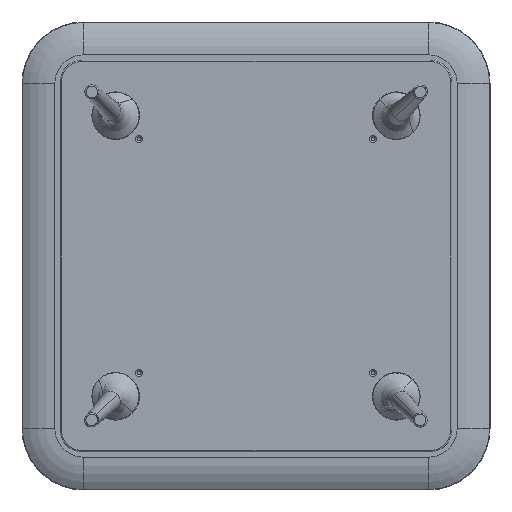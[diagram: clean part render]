
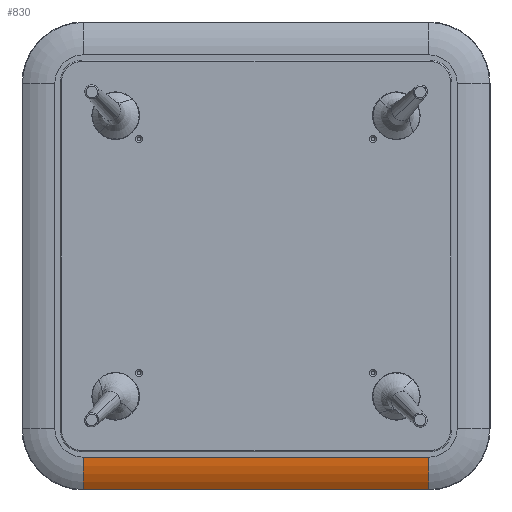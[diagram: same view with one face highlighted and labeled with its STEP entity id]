
A CAD part, front view. The second image highlights one B-rep face of the part: STEP entity #830.
In plain terms, the highlighted cylindrical face has radius 129.817 mm (diameter 259.633 mm), a partial arc.
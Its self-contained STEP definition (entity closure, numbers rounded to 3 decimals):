
#170 = ORIENTED_EDGE ( 'NONE', *, *, #1967, .T. ) ;
#342 = DIRECTION ( 'NONE',  ( -1., 0., 0. ) ) ;
#578 = ORIENTED_EDGE ( 'NONE', *, *, #3922, .T. ) ;
#830 = ADVANCED_FACE ( 'NONE', ( #7396 ), #3736, .T. ) ;
#1563 = DIRECTION ( 'NONE',  ( 0., 0., 1. ) ) ;
#1578 = VERTEX_POINT ( 'NONE', #3310 ) ;
#1723 = DIRECTION ( 'NONE',  ( 1., 0., 0. ) ) ;
#1757 = CARTESIAN_POINT ( 'NONE',  ( 607.107, 628.408, 497.806 ) ) ;
#1967 = EDGE_CURVE ( 'NONE', #3824, #1578, #7891, .T. ) ;
#2241 = VERTEX_POINT ( 'NONE', #6894 ) ;
#2606 = CIRCLE ( 'NONE', #8881, 129.817 ) ;
#2713 = EDGE_CURVE ( 'NONE', #6631, #1578, #4660, .T. ) ;
#3134 = CARTESIAN_POINT ( 'NONE',  ( 607.107, 603.84, 573.8 ) ) ;
#3148 = DIRECTION ( 'NONE',  ( 1., 0., 0. ) ) ;
#3310 = CARTESIAN_POINT ( 'NONE',  ( 607.107, 628.408, 497.806 ) ) ;
#3523 = EDGE_LOOP ( 'NONE', ( #7196, #170, #3719, #578 ) ) ;
#3689 = CARTESIAN_POINT ( 'NONE',  ( 607.107, 733.657, 573.8 ) ) ;
#3719 = ORIENTED_EDGE ( 'NONE', *, *, #2713, .F. ) ;
#3736 = CYLINDRICAL_SURFACE ( 'NONE', #4818, 129.817 ) ;
#3824 = VERTEX_POINT ( 'NONE', #4504 ) ;
#3922 = EDGE_CURVE ( 'NONE', #6631, #2241, #7454, .T. ) ;
#4369 = DIRECTION ( 'NONE',  ( 0., 0., 1. ) ) ;
#4504 = CARTESIAN_POINT ( 'NONE',  ( -204.893, 628.408, 497.806 ) ) ;
#4660 = CIRCLE ( 'NONE', #7905, 129.817 ) ;
#4818 = AXIS2_PLACEMENT_3D ( 'NONE', #7219, #342, #1563 ) ;
#5602 = VECTOR ( 'NONE', #8160, 1000. ) ;
#5859 = VECTOR ( 'NONE', #1723, 1000. ) ;
#6029 = CARTESIAN_POINT ( 'NONE',  ( 607.107, 603.84, 573.8 ) ) ;
#6631 = VERTEX_POINT ( 'NONE', #3134 ) ;
#6894 = CARTESIAN_POINT ( 'NONE',  ( -204.893, 603.84, 573.8 ) ) ;
#7119 = EDGE_CURVE ( 'NONE', #2241, #3824, #2606, .T. ) ;
#7196 = ORIENTED_EDGE ( 'NONE', *, *, #7119, .T. ) ;
#7219 = CARTESIAN_POINT ( 'NONE',  ( 607.107, 733.657, 573.8 ) ) ;
#7259 = CARTESIAN_POINT ( 'NONE',  ( -204.893, 733.657, 573.8 ) ) ;
#7396 = FACE_OUTER_BOUND ( 'NONE', #3523, .T. ) ;
#7454 = LINE ( 'NONE', #6029, #5602 ) ;
#7891 = LINE ( 'NONE', #1757, #5859 ) ;
#7905 = AXIS2_PLACEMENT_3D ( 'NONE', #3689, #8479, #4369 ) ;
#7931 = DIRECTION ( 'NONE',  ( 0., 0., 1. ) ) ;
#8160 = DIRECTION ( 'NONE',  ( -1., 0., 0. ) ) ;
#8479 = DIRECTION ( 'NONE',  ( 1., 0., 0. ) ) ;
#8881 = AXIS2_PLACEMENT_3D ( 'NONE', #7259, #3148, #7931 ) ;
